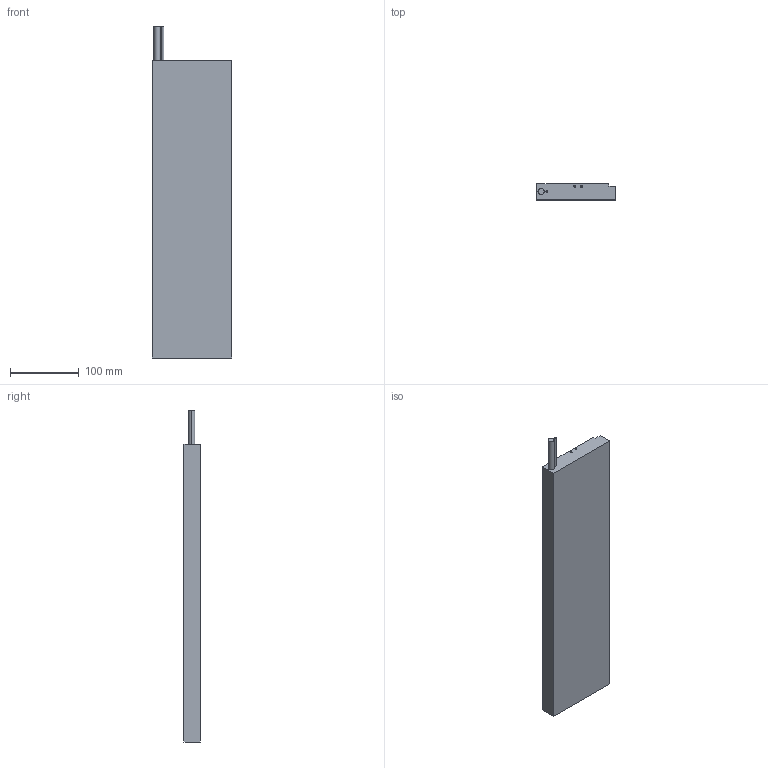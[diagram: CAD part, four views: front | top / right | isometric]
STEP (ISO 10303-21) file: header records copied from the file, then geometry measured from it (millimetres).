
FILE_DESCRIPTION (( 'STEP AP203' ), '1' );
FILE_NAME ('LMSA34.STEP', '2016-05-16T08:57:07', ( '' ), ( '' ), 'SwSTEP 2.0', 'SolidWorks 2015', '' );
FILE_SCHEMA (( 'CONFIG_CONTROL_DESIGN' ));
Length unit declared in the file: millimetre
Products named in the file (1): LMSA34
Bounding box: 116 x 23.7 x 483 mm (x, y, z)
Volume: 1173801.8 mm3; surface area: 129870.1 mm2
Topology: 1 solids, 1 shells, 168 faces, 416 edges, 214 vertices
Faces by surface type: cylinder 80, cone 76, plane 12
Entity records: 4477 total; most frequent: DIRECTION 838, CARTESIAN_POINT 723, ORIENTED_EDGE 680, EDGE_CURVE 340, AXIS2_PLACEMENT_3D 329, VERTEX_POINT 214, EDGE_LOOP 208, VECTOR 180
